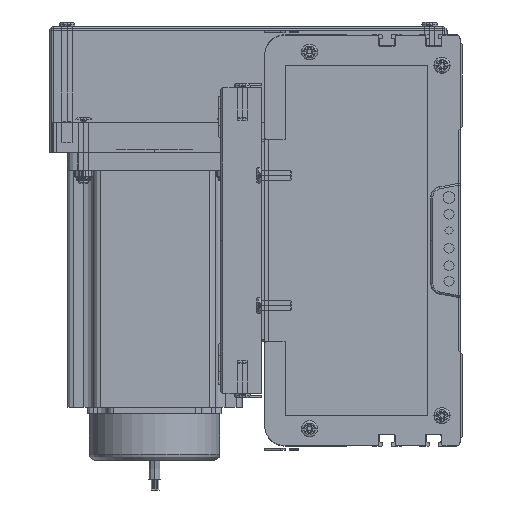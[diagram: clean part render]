
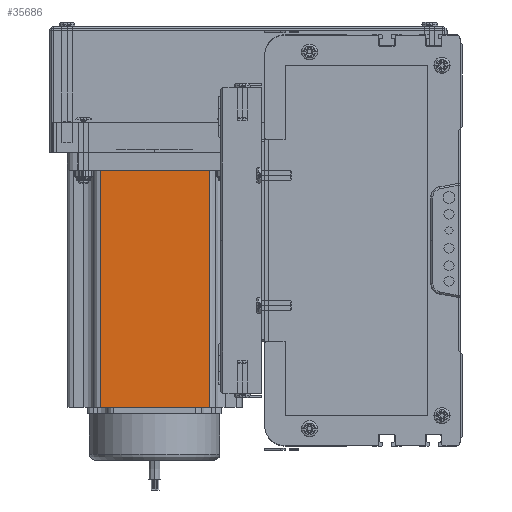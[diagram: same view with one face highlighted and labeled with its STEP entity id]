
A CAD part, left-side view. The second image highlights one B-rep face of the part: STEP entity #35686.
In plain terms, the highlighted planar face has unit normal (-1, 0, 0) as drawn and (0, -1, 0) by its records, which use the part's own axes.
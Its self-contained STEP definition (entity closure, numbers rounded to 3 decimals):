
#35197 = EDGE_LOOP ( 'NONE', ( #35689, #35766, #35697, #35417 ) ) ;
#35210 = VERTEX_POINT ( 'NONE', #119627 ) ;
#35410 = EDGE_CURVE ( 'NONE', #35670, #35210, #119957, .T. ) ;
#35417 = ORIENTED_EDGE ( 'NONE', *, *, #35698, .T. ) ;
#35420 = VERTEX_POINT ( 'NONE', #120408 ) ;
#35424 = EDGE_CURVE ( 'NONE', #35420, #35210, #120565, .T. ) ;
#35449 = VERTEX_POINT ( 'NONE', #121328 ) ;
#35670 = VERTEX_POINT ( 'NONE', #120853 ) ;
#35677 = EDGE_CURVE ( 'NONE', #35449, #35670, #121273, .T. ) ;
#35686 = ADVANCED_FACE ( 'NONE', ( #122155 ), #122073, .F. ) ;
#35689 = ORIENTED_EDGE ( 'NONE', *, *, #35677, .T. ) ;
#35697 = ORIENTED_EDGE ( 'NONE', *, *, #35424, .F. ) ;
#35698 = EDGE_CURVE ( 'NONE', #35420, #35449, #121512, .T. ) ;
#35766 = ORIENTED_EDGE ( 'NONE', *, *, #35410, .T. ) ;
#119627 = CARTESIAN_POINT ( 'NONE',  ( 69.74, 0., 116.5 ) ) ;
#119957 = LINE ( 'NONE', #120260, #120258 ) ;
#120256 = DIRECTION ( 'NONE',  ( 0., 0., 1. ) ) ;
#120258 = VECTOR ( 'NONE', #120256, 1000. ) ;
#120260 = CARTESIAN_POINT ( 'NONE',  ( 69.74, 0., 116.5 ) ) ;
#120408 = CARTESIAN_POINT ( 'NONE',  ( 16.16, 0., 116.5 ) ) ;
#120545 = DIRECTION ( 'NONE',  ( 1., 0., 0. ) ) ;
#120548 = VECTOR ( 'NONE', #120545, 1000. ) ;
#120549 = CARTESIAN_POINT ( 'NONE',  ( 0., 0., 116.5 ) ) ;
#120565 = LINE ( 'NONE', #120549, #120548 ) ;
#120853 = CARTESIAN_POINT ( 'NONE',  ( 69.74, 0., 0. ) ) ;
#121264 = DIRECTION ( 'NONE',  ( 1., 0., 0. ) ) ;
#121268 = VECTOR ( 'NONE', #121264, 1000. ) ;
#121271 = CARTESIAN_POINT ( 'NONE',  ( 0., 0., 0. ) ) ;
#121273 = LINE ( 'NONE', #121271, #121268 ) ;
#121328 = CARTESIAN_POINT ( 'NONE',  ( 16.16, 0., 0. ) ) ;
#121496 = DIRECTION ( 'NONE',  ( 0., 0., -1. ) ) ;
#121497 = VECTOR ( 'NONE', #121496, 1000. ) ;
#121510 = CARTESIAN_POINT ( 'NONE',  ( 16.16, 0., 116.5 ) ) ;
#121512 = LINE ( 'NONE', #121510, #121497 ) ;
#121706 = AXIS2_PLACEMENT_3D ( 'NONE', #122019, #121734, #121732 ) ;
#121732 = DIRECTION ( 'NONE',  ( 0., 0., 1. ) ) ;
#121734 = DIRECTION ( 'NONE',  ( 0., 1., 0. ) ) ;
#122019 = CARTESIAN_POINT ( 'NONE',  ( 0., 0., 116.5 ) ) ;
#122073 = PLANE ( 'NONE',  #121706 ) ;
#122155 = FACE_OUTER_BOUND ( 'NONE', #35197, .T. ) ;
